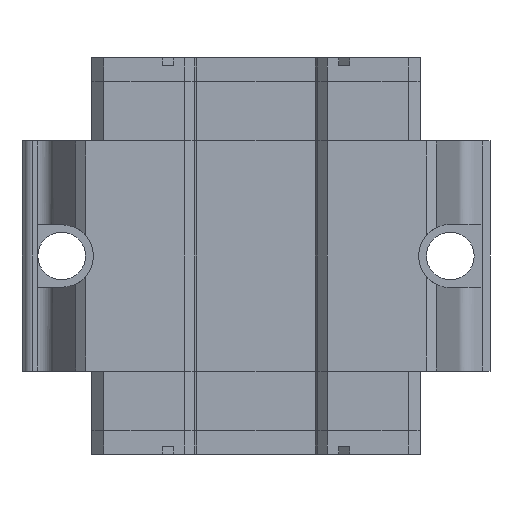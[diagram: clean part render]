
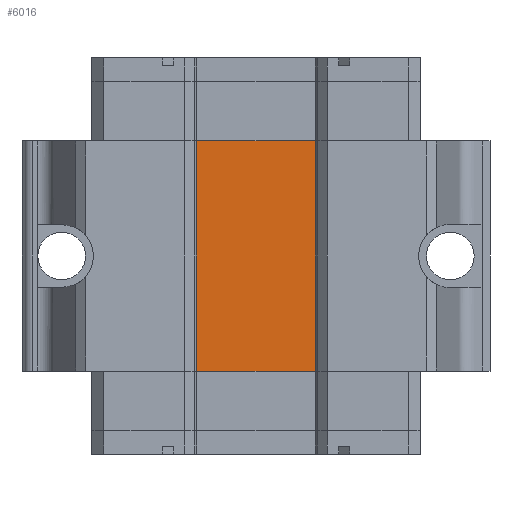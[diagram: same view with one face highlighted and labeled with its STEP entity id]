
A CAD part, front view. The second image highlights one B-rep face of the part: STEP entity #6016.
In plain terms, the highlighted planar face has unit normal (0, -1, 0).
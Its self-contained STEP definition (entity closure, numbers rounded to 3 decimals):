
#265=PLANE('',#6532);
#557=FACE_OUTER_BOUND('',#895,.T.);
#895=EDGE_LOOP('',(#5377,#5378,#5379,#5380));
#1489=LINE('',#10130,#2119);
#1492=LINE('',#10201,#2122);
#1494=LINE('',#10205,#2124);
#1495=LINE('',#10206,#2125);
#2119=VECTOR('',#8048,1.);
#2122=VECTOR('',#8053,1.);
#2124=VECTOR('',#8057,1.);
#2125=VECTOR('',#8058,1.);
#2911=VERTEX_POINT('',#9864);
#2950=VERTEX_POINT('',#10128);
#2953=VERTEX_POINT('',#10200);
#2954=VERTEX_POINT('',#10204);
#3774=EDGE_CURVE('',#2911,#2950,#1489,.T.);
#3778=EDGE_CURVE('',#2953,#2911,#1492,.T.);
#3780=EDGE_CURVE('',#2954,#2950,#1494,.T.);
#3781=EDGE_CURVE('',#2953,#2954,#1495,.T.);
#5377=ORIENTED_EDGE('',*,*,#3780,.F.);
#5378=ORIENTED_EDGE('',*,*,#3781,.F.);
#5379=ORIENTED_EDGE('',*,*,#3778,.T.);
#5380=ORIENTED_EDGE('',*,*,#3774,.T.);
#6016=ADVANCED_FACE('',(#557),#265,.F.);
#6532=AXIS2_PLACEMENT_3D('',#10203,#8055,#8056);
#8048=DIRECTION('',(-1.,0.,0.));
#8053=DIRECTION('',(0.,0.,1.));
#8055=DIRECTION('center_axis',(0.,1.,0.));
#8056=DIRECTION('ref_axis',(1.,0.,0.));
#8057=DIRECTION('',(0.,0.,1.));
#8058=DIRECTION('',(-1.,0.,0.));
#9864=CARTESIAN_POINT('',(8.334,0.,36.5));
#10128=CARTESIAN_POINT('',(-8.334,0.,36.5));
#10130=CARTESIAN_POINT('',(0.39,0.,36.5));
#10200=CARTESIAN_POINT('',(8.334,0.,7.5));
#10201=CARTESIAN_POINT('',(8.334,0.,13.95));
#10203=CARTESIAN_POINT('Origin',(-8.334,0.,30.05));
#10204=CARTESIAN_POINT('',(-8.334,0.,7.5));
#10205=CARTESIAN_POINT('',(-8.334,0.,13.95));
#10206=CARTESIAN_POINT('',(0.39,0.,7.5));
